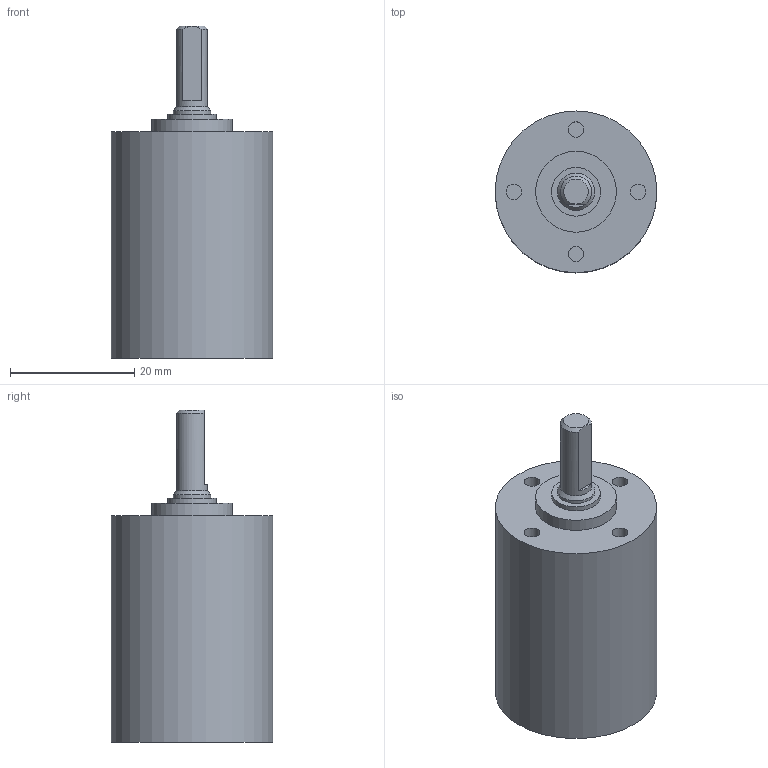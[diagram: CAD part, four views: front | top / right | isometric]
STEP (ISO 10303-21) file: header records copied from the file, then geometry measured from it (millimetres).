
FILE_DESCRIPTION(/* description */ (''),/* implementation_level */ '2;1');
FILE_NAME(/* name */ '26-1_2stage.stp',/* time_stamp */ '2021-02-23T07:20:41+01:00',/* author */ ('DR. FRITZ FAULHABER GmbH & Co. KG'),/* organization */ ('DR. FRITZ FAULHABER GmbH & Co. KG'),/* preprocessor_version */ 'ST-DEVELOPER v16.7',/* originating_system */ 'SIEMENS PLM Software NX 1919',/* authorisation */ '');
FILE_SCHEMA (('AUTOMOTIVE_DESIGN { 1 0 10303 214 3 1 1 1 }'));
Length unit declared in the file: millimetre
Products named in the file (1): 012020_A_2-TP-00214
Bounding box: 26 x 26 x 53.4 mm (x, y, z)
Volume: 15495.4 mm3; surface area: 5309.3 mm2
Topology: 1 solids, 1 shells, 34 faces, 65 edges, 47 vertices
Faces by surface type: plane 17, cylinder 15, cone 2
Full cylindrical faces by diameter (mm): 2.5 x4, 5 x1, 6 x1, 7.85 x1, 11.7 x1, 12.01 x1, 13 x1, 21.5 x1, 22.05 x1, 24 x1, 24.459 x1, 26 x1
Entity records: 824 total; most frequent: DIRECTION 157, CARTESIAN_POINT 123, AXIS2_PLACEMENT_3D 77, ORIENTED_EDGE 74, EDGE_LOOP 63, FACE_BOUND 54, CIRCLE 42, EDGE_CURVE 37
